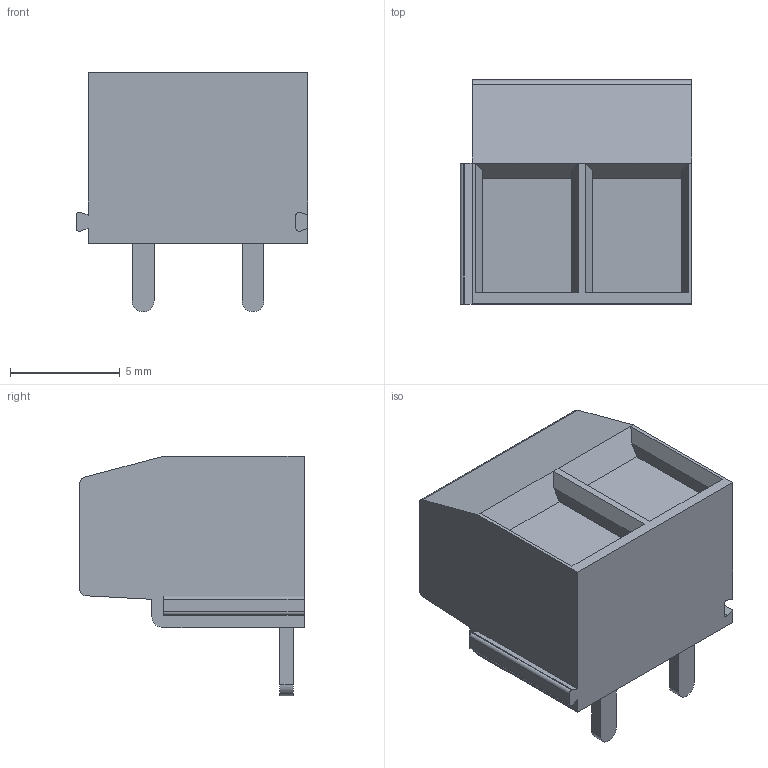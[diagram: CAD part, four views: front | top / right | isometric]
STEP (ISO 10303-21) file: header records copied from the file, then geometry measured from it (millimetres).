
FILE_DESCRIPTION (( 'STEP AP203' ), '1' );
FILE_NAME ('BR3R-02.STEP', '2020-02-20T03:55:04', ( '' ), ( '' ), 'SwSTEP 2.0', 'SolidWorks 2019', '' );
FILE_SCHEMA (( 'CONFIG_CONTROL_DESIGN' ));
Length unit declared in the file: millimetre
Products named in the file (1): BR3R-02
Bounding box: 10.55 x 10.2 x 10.9 mm (x, y, z)
Volume: 655.9 mm3; surface area: 674.3 mm2
Topology: 1 solids, 1 shells, 129 faces, 329 edges, 208 vertices
Faces by surface type: plane 79, cylinder 20, torus 18, cone 12
Entity records: 4012 total; most frequent: CARTESIAN_POINT 771, DIRECTION 665, ORIENTED_EDGE 658, EDGE_CURVE 329, AXIS2_PLACEMENT_3D 222, VECTOR 221, LINE 221, VERTEX_POINT 208
